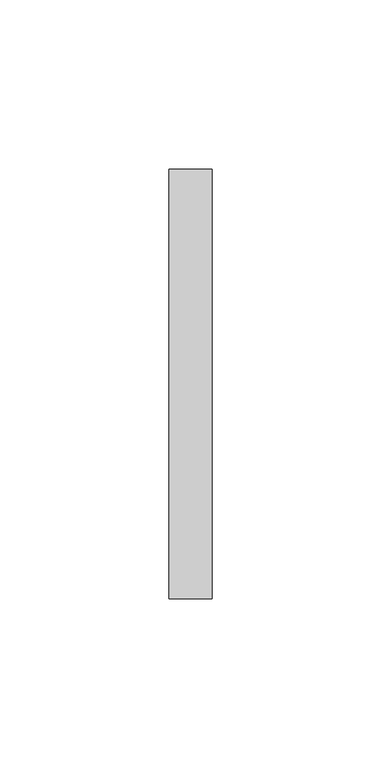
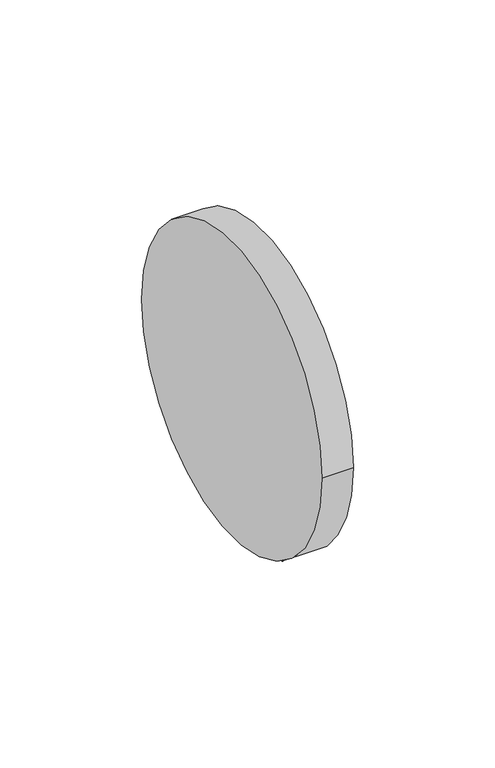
"""IFC4 building model written with IfcOpenShell, lengths in millimetres: proxy geometry, DOAS Supply to Return Connection : DOAS Supply to Return Duct Connection."""

import ifcopenshell
import ifcopenshell.guid

model = None  # the IFC model being written
_history = None  # IfcOwnerHistory: only IFC2X3 demands one
_inside = {}  # id of a spatial element -> (the spatial element, [elements in it])
_under = {}  # id of a project, library or spatial element -> (it, [spatial elements below it])
_declared = {}  # id of a project -> (the project, [libraries it declares])
_typed = {}  # id of a type object -> (the type object, [elements of that type])
_made_of = {}  # id of a material, layer set ... -> (it, [elements and type objects made of it])


def new_model(schema):
    """Start an empty IFC model of exactly this schema.

    Asked for "IFC4X3", IfcOpenShell would pick the latest addendum, in which some entities
    have other attributes; the version numbers below select the first issue.
    IFC2X3 requires an IfcOwnerHistory on every rooted entity: one is made here for all.
    """
    global model, _history
    if schema == "IFC4X3":
        model = ifcopenshell.file(schema_version=(4, 3, 0, 0))
    else:
        model = ifcopenshell.file(schema=schema)
    _inside.clear()
    _under.clear()
    _declared.clear()
    _typed.clear()
    _made_of.clear()
    _history = None
    if model.schema == "IFC2X3":
        org = make("IfcOrganization", Name="unknown")
        user = make(
            "IfcPersonAndOrganization",
            ThePerson=make("IfcPerson", FamilyName="unknown"),
            TheOrganization=org,
        )
        app = make(
            "IfcApplication",
            ApplicationDeveloper=org,
            Version="unknown",
            ApplicationFullName="unknown",
            ApplicationIdentifier="unknown",
        )
        _history = make(
            "IfcOwnerHistory",
            OwningUser=user,
            OwningApplication=app,
            ChangeAction="ADDED",
            CreationDate=0,
        )
    return model


def make(cls, **values):
    """One entity of the class cls with the attributes given. An attribute that is None is left unset."""
    return model.create_entity(
        cls, **{name: value for name, value in values.items() if value is not None}
    )


def rooted(cls, **values):
    """An entity with a GlobalId (a new one), such as an element, a storey or a relation."""
    return make(cls, GlobalId=ifcopenshell.guid.new(), OwnerHistory=_history, **values)


def si_unit(unit_type, name, prefix=None):
    """IfcSIUnit, for example si_unit("LENGTHUNIT", "METRE", prefix="MILLI")."""
    return make("IfcSIUnit", UnitType=unit_type, Prefix=prefix, Name=name)


def assignment(units):
    """IfcUnitAssignment: the units of a project."""
    return None if units is None else make("IfcUnitAssignment", Units=units)


def point(xyz):
    """IfcCartesianPoint."""
    return None if xyz is None else make("IfcCartesianPoint", Coordinates=xyz)


def direction(xyz):
    """IfcDirection."""
    return None if xyz is None else make("IfcDirection", DirectionRatios=xyz)


def frame(location, z_axis=None, x_axis=None):
    """IfcAxis2Placement3D, a coordinate frame: its origin and axes. An axis left out is left unset."""
    return make(
        "IfcAxis2Placement3D",
        Location=point(location),
        Axis=direction(z_axis),
        RefDirection=direction(x_axis),
    )


def frame_2d(location, x_axis=None):
    """IfcAxis2Placement2D, a coordinate frame in the plane: its origin and x axis."""
    return make(
        "IfcAxis2Placement2D", Location=point(location), RefDirection=direction(x_axis)
    )


def origin():
    """The frame at (0, 0, 0) with its axes left unset."""
    return frame((0.0, 0.0, 0.0))


def origin_2d():
    """The frame at (0, 0) in the plane with its x axis left unset."""
    return frame_2d((0.0, 0.0))


def place(relative_to, where):
    """IfcLocalPlacement: puts the frame where relative to a parent placement (None: the world)."""
    return make(
        "IfcLocalPlacement", PlacementRelTo=relative_to, RelativePlacement=where
    )


def context(
    kind, dimensions, precision=None, world=None, true_north=None, identifier=None
):
    """IfcGeometricRepresentationContext, for example the 3D "Model" context."""
    return make(
        "IfcGeometricRepresentationContext",
        ContextIdentifier=identifier,
        ContextType=kind,
        CoordinateSpaceDimension=dimensions,
        Precision=precision,
        WorldCoordinateSystem=world,
        TrueNorth=true_north,
    )


def project(units=None, contexts=None):
    """IfcProject with its units and contexts."""
    return rooted(
        "IfcProject",
        Name="project",
        RepresentationContexts=contexts,
        UnitsInContext=assignment(units),
    )


def spatial(cls, under=None, at=None, **own):
    """A site, building, storey or space (cls), placed at a placement, below another one or the project."""
    s = rooted(cls, ObjectPlacement=at, **own)
    if under is not None:
        _under.setdefault(under.id(), (under, []))[1].append(s)
    return s


def circle_curve(where, radius):
    """IfcCircle in the frame where."""
    return make("IfcCircle", Position=where, Radius=radius)


def trimmed(basis, trim1, trim2, sense, master):
    """IfcTrimmedCurve: the piece of a basis curve between two trims."""
    return make(
        "IfcTrimmedCurve",
        BasisCurve=basis,
        Trim1=trim1,
        Trim2=trim2,
        SenseAgreement=sense,
        MasterRepresentation=master,
    )


def segment(curve, same_sense, transition):
    """IfcCompositeCurveSegment."""
    return make(
        "IfcCompositeCurveSegment",
        Transition=transition,
        SameSense=same_sense,
        ParentCurve=curve,
    )


def composite_curve(segments, self_intersect=None):
    """IfcCompositeCurve: segments joined end to end."""
    return make("IfcCompositeCurve", Segments=segments, SelfIntersect=self_intersect)


def outline(outer, holes=None, kind="AREA"):
    """IfcArbitraryClosedProfileDef: a profile drawn as a closed curve; with holes, ...WithVoids."""
    if holes is None:
        return make("IfcArbitraryClosedProfileDef", ProfileType=kind, OuterCurve=outer)
    return make(
        "IfcArbitraryProfileDefWithVoids",
        ProfileType=kind,
        OuterCurve=outer,
        InnerCurves=holes,
    )


def extrude(swept, where, along, depth):
    """IfcExtrudedAreaSolid: the profile swept, set in the frame where, extruded along a direction by depth."""
    return make(
        "IfcExtrudedAreaSolid",
        SweptArea=swept,
        Position=where,
        ExtrudedDirection=direction(along),
        Depth=depth,
    )


def shape(context_of_items, identifier, shape_type, items):
    """IfcShapeRepresentation: the items that make up one representation, for example the "Body"."""
    return make(
        "IfcShapeRepresentation",
        ContextOfItems=context_of_items,
        RepresentationIdentifier=identifier,
        RepresentationType=shape_type,
        Items=items,
    )


def source(mapping_origin, context_of_items, identifier, shape_type, items):
    """IfcRepresentationMap: a shape defined once, which mapped items show again and again."""
    return make(
        "IfcRepresentationMap",
        MappingOrigin=mapping_origin,
        MappedRepresentation=shape(context_of_items, identifier, shape_type, items),
    )


def transform(
    local_origin,
    x_axis=None,
    y_axis=None,
    z_axis=None,
    scale=None,
    scale2=None,
    scale3=None,
    uniform=True,
):
    """IfcCartesianTransformationOperator3D, or its non-uniform kind. x_axis, y_axis, z_axis: its Axis1, 2, 3."""
    if uniform:
        return make(
            "IfcCartesianTransformationOperator3D",
            Axis1=direction(x_axis),
            Axis2=direction(y_axis),
            LocalOrigin=point(local_origin),
            Scale=scale,
            Axis3=direction(z_axis),
        )
    return make(
        "IfcCartesianTransformationOperator3DnonUniform",
        Axis1=direction(x_axis),
        Axis2=direction(y_axis),
        LocalOrigin=point(local_origin),
        Scale=scale,
        Axis3=direction(z_axis),
        Scale2=scale2,
        Scale3=scale3,
    )


def mapped(mapping_source, mapping_target):
    """IfcMappedItem: shows the shape of a source again, moved by a transform."""
    return make(
        "IfcMappedItem", MappingSource=mapping_source, MappingTarget=mapping_target
    )


def made_of(thing, what):
    """Note that an element or type object is made of a material, layer set ...; save() writes the relation."""
    if what is not None:
        _made_of.setdefault(what.id(), (what, []))[1].append(thing)
    return thing


def element(
    cls,
    number,
    at=None,
    inside=None,
    cuts=None,
    type_object=None,
    material=None,
    context=None,
    identifier="Body",
    shape_type=None,
    held_by="IfcProductDefinitionShape",
    body=None,
    shapes=None,
    **own,
):
    """One element of the class cls, such as IfcWall. Its Tag is "e" and its number.

    at: its placement. inside: the storey or other place that contains it. cuts: it is an
    opening in that element (IfcRelVoidsElement). A single representation is given by context,
    identifier, shape_type and body (its items); several are given by shapes. held_by: the class
    of the entity that holds the representations. save() writes the other relations.
    """
    e = rooted(cls, Tag="e%d" % number, ObjectPlacement=at, **own)
    if body is not None:
        shapes = [shape(context, identifier, shape_type, body)]
    if shapes is not None:
        e.Representation = make(held_by, Representations=shapes)
    if inside is not None:
        _inside.setdefault(inside.id(), (inside, []))[1].append(e)
    if cuts is not None:
        rooted(
            "IfcRelVoidsElement", RelatingBuildingElement=cuts, RelatedOpeningElement=e
        )
    if type_object is not None:
        _typed.setdefault(type_object.id(), (type_object, []))[1].append(e)
    return made_of(e, material)


def aggregate(whole, parts):
    """IfcRelAggregates: a whole, such as a stair, and the parts it consists of."""
    return rooted("IfcRelAggregates", RelatingObject=whole, RelatedObjects=parts)


def save(model, path):
    """Write the relations noted so far, then the file.

    IfcRelAggregates (storeys below a building ...), IfcRelContainedInSpatialStructure (elements
    in a storey), IfcRelDefinesByType, IfcRelAssociatesMaterial and IfcRelDeclares: one each for
    every whole, place, type object, material and project.
    """
    for whole, parts in _under.values():
        aggregate(whole, parts)
    for where, things in _inside.values():
        rooted(
            "IfcRelContainedInSpatialStructure",
            RelatedElements=things,
            RelatingStructure=where,
        )
    for kind, things in _typed.values():
        rooted("IfcRelDefinesByType", RelatedObjects=things, RelatingType=kind)
    for what, things in _made_of.values():
        rooted("IfcRelAssociatesMaterial", RelatedObjects=things, RelatingMaterial=what)
    for by, libraries in _declared.values():
        rooted("IfcRelDeclares", RelatingContext=by, RelatedDefinitions=libraries)
    model.write(path)


def mechanical_equipment_142123ad(model_context):
    return source(origin(), model_context, "Body", "SweptSolid", [
        extrude(outline(composite_curve([segment(trimmed(circle_curve(origin_2d(), 63.5), [point((-63.5, 0.0))], [point((63.5, 0.0))], False, "CARTESIAN"), True, "CONTINUOUS"), segment(trimmed(circle_curve(origin_2d(), 63.5), [point((63.5, 0.0))], [point((-63.5, 0.0))], False, "CARTESIAN"), True, "CONTINUOUS")], self_intersect=False)), frame((0.0, 0.0, 0.0), z_axis=(1.0, 0.0, 0.0), x_axis=(0.0, 1.0, 0.0)), (0.0, 0.0, 1.0), 12.7),
    ])


if __name__ == "__main__":
    model = new_model("IFC4")
    model_context = context("Model", 3, world=origin())
    ifc_project = project(units=[si_unit("LENGTHUNIT", "METRE", prefix="MILLI")], contexts=[model_context])
    site = spatial("IfcSite", under=ifc_project)
    building = spatial("IfcBuilding", under=site)
    placement = place(None, origin())
    mechanical_equipment_shape = mechanical_equipment_142123ad(model_context)
    element("IfcBuildingElementProxy", 1, Name="DOAS Supply to Return Connection : DOAS Supply to Return Duct Connection", ObjectType="DOAS Supply to Return Connection : DOAS Supply to Return Duct Connection", at=placement, inside=building, context=model_context, shape_type="MappedRepresentation", body=[
        mapped(mechanical_equipment_shape, transform((0.0, 0.0, 0.0), x_axis=(1.0, 0.0, 0.0), y_axis=(0.0, 1.0, 0.0), z_axis=(0.0, 0.0, 1.0))),
    ])
    save(model, "model.ifc")
